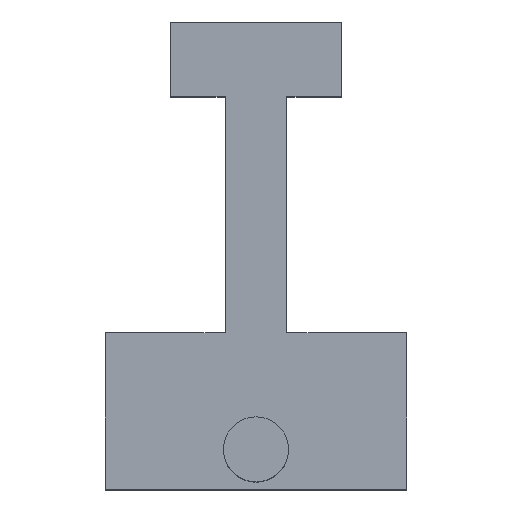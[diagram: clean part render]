
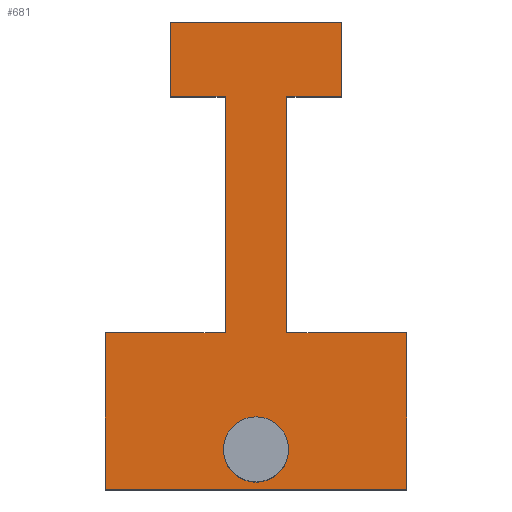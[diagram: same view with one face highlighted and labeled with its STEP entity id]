
A CAD part, top view. The second image highlights one B-rep face of the part: STEP entity #681.
In plain terms, the highlighted planar face has unit normal (0, 0, 1).
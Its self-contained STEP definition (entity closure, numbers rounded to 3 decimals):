
#13 = VERTEX_POINT ( 'NONE', #883 ) ;
#15 = CARTESIAN_POINT ( 'NONE',  ( 1.95, -4.85, 22. ) ) ;
#20 = CARTESIAN_POINT ( 'NONE',  ( -9.5, -4.85, 22. ) ) ;
#38 = CIRCLE ( 'NONE', #1050, 2.05 ) ;
#52 = CARTESIAN_POINT ( 'NONE',  ( -5.4, 10.05, 22. ) ) ;
#64 = EDGE_CURVE ( 'NONE', #282, #1248, #212, .T. ) ;
#67 = CARTESIAN_POINT ( 'NONE',  ( 5.4, 14.75, 22. ) ) ;
#82 = EDGE_CURVE ( 'NONE', #233, #677, #746, .T. ) ;
#104 = CARTESIAN_POINT ( 'NONE',  ( 5.4, 10.05, 22. ) ) ;
#111 = EDGE_CURVE ( 'NONE', #1120, #282, #1227, .T. ) ;
#113 = CARTESIAN_POINT ( 'NONE',  ( -5.4, 14.75, 22. ) ) ;
#126 = CARTESIAN_POINT ( 'NONE',  ( 5.4, 14.75, 22. ) ) ;
#128 = DIRECTION ( 'NONE',  ( 0., 0., 1. ) ) ;
#132 = LINE ( 'NONE', #113, #755 ) ;
#147 = VECTOR ( 'NONE', #248, 1000. ) ;
#168 = ORIENTED_EDGE ( 'NONE', *, *, #738, .T. ) ;
#196 = VERTEX_POINT ( 'NONE', #1099 ) ;
#197 = DIRECTION ( 'NONE',  ( -1., 0., 0. ) ) ;
#205 = PLANE ( 'NONE',  #1128 ) ;
#208 = EDGE_CURVE ( 'NONE', #677, #570, #836, .T. ) ;
#212 = LINE ( 'NONE', #354, #471 ) ;
#228 = VECTOR ( 'NONE', #283, 1000. ) ;
#233 = VERTEX_POINT ( 'NONE', #15 ) ;
#237 = ORIENTED_EDGE ( 'NONE', *, *, #715, .T. ) ;
#248 = DIRECTION ( 'NONE',  ( 0., 1., 0. ) ) ;
#252 = ORIENTED_EDGE ( 'NONE', *, *, #208, .T. ) ;
#260 = CARTESIAN_POINT ( 'NONE',  ( 1.95, 10.05, 22. ) ) ;
#276 = ORIENTED_EDGE ( 'NONE', *, *, #539, .T. ) ;
#282 = VERTEX_POINT ( 'NONE', #20 ) ;
#283 = DIRECTION ( 'NONE',  ( 1., 0., 0. ) ) ;
#309 = ORIENTED_EDGE ( 'NONE', *, *, #563, .T. ) ;
#315 = CARTESIAN_POINT ( 'NONE',  ( -9.5, -4.85, 22. ) ) ;
#317 = AXIS2_PLACEMENT_3D ( 'NONE', #520, #128, #730 ) ;
#329 = VECTOR ( 'NONE', #378, 1000. ) ;
#331 = LINE ( 'NONE', #1258, #1117 ) ;
#351 = DIRECTION ( 'NONE',  ( 0., 1., 0. ) ) ;
#354 = CARTESIAN_POINT ( 'NONE',  ( -9.5, -14.75, 22. ) ) ;
#365 = CARTESIAN_POINT ( 'NONE',  ( 0., -12.25, 22. ) ) ;
#378 = DIRECTION ( 'NONE',  ( 0., -1., 0. ) ) ;
#379 = ORIENTED_EDGE ( 'NONE', *, *, #111, .T. ) ;
#390 = FACE_BOUND ( 'NONE', #1091, .T. ) ;
#400 = CARTESIAN_POINT ( 'NONE',  ( 0., 0., 22. ) ) ;
#404 = DIRECTION ( 'NONE',  ( -1., 0., 0. ) ) ;
#416 = ORIENTED_EDGE ( 'NONE', *, *, #64, .T. ) ;
#463 = DIRECTION ( 'NONE',  ( 0., 0., 1. ) ) ;
#471 = VECTOR ( 'NONE', #1068, 1000. ) ;
#473 = DIRECTION ( 'NONE',  ( -1., 0., 0. ) ) ;
#474 = ORIENTED_EDGE ( 'NONE', *, *, #490, .T. ) ;
#475 = DIRECTION ( 'NONE',  ( -1., 0., 0. ) ) ;
#490 = EDGE_CURVE ( 'NONE', #699, #196, #1214, .T. ) ;
#493 = DIRECTION ( 'NONE',  ( -1., 0., 0. ) ) ;
#520 = CARTESIAN_POINT ( 'NONE',  ( 0., -12.25, 22. ) ) ;
#532 = VECTOR ( 'NONE', #1197, 1000. ) ;
#539 = EDGE_CURVE ( 'NONE', #196, #233, #331, .T. ) ;
#563 = EDGE_CURVE ( 'NONE', #1248, #699, #861, .T. ) ;
#570 = VERTEX_POINT ( 'NONE', #785 ) ;
#599 = VECTOR ( 'NONE', #1236, 1000. ) ;
#609 = VERTEX_POINT ( 'NONE', #897 ) ;
#620 = DIRECTION ( 'NONE',  ( 0., -1., 0. ) ) ;
#648 = ORIENTED_EDGE ( 'NONE', *, *, #82, .T. ) ;
#654 = VECTOR ( 'NONE', #994, 1000. ) ;
#669 = CARTESIAN_POINT ( 'NONE',  ( -1.95, -4.85, 22. ) ) ;
#677 = VERTEX_POINT ( 'NONE', #802 ) ;
#681 = ADVANCED_FACE ( 'NONE', ( #390, #786 ), #205, .F. ) ;
#688 = LINE ( 'NONE', #126, #147 ) ;
#699 = VERTEX_POINT ( 'NONE', #1194 ) ;
#700 = CARTESIAN_POINT ( 'NONE',  ( -1.95, 10.05, 22. ) ) ;
#703 = ORIENTED_EDGE ( 'NONE', *, *, #1253, .T. ) ;
#715 = EDGE_CURVE ( 'NONE', #992, #749, #952, .T. ) ;
#727 = ORIENTED_EDGE ( 'NONE', *, *, #866, .T. ) ;
#730 = DIRECTION ( 'NONE',  ( -1., 0., 0. ) ) ;
#738 = EDGE_CURVE ( 'NONE', #1134, #1008, #132, .T. ) ;
#746 = LINE ( 'NONE', #260, #774 ) ;
#749 = VERTEX_POINT ( 'NONE', #700 ) ;
#755 = VECTOR ( 'NONE', #197, 1000. ) ;
#774 = VECTOR ( 'NONE', #351, 1000. ) ;
#784 = VECTOR ( 'NONE', #620, 1000. ) ;
#785 = CARTESIAN_POINT ( 'NONE',  ( 5.4, 10.05, 22. ) ) ;
#786 = FACE_OUTER_BOUND ( 'NONE', #988, .T. ) ;
#787 = CARTESIAN_POINT ( 'NONE',  ( -9.5, -14.75, 22. ) ) ;
#802 = CARTESIAN_POINT ( 'NONE',  ( 1.95, 10.05, 22. ) ) ;
#807 = ORIENTED_EDGE ( 'NONE', *, *, #846, .F. ) ;
#826 = CARTESIAN_POINT ( 'NONE',  ( -5.4, 10.05, 22. ) ) ;
#836 = LINE ( 'NONE', #104, #532 ) ;
#846 = EDGE_CURVE ( 'NONE', #13, #609, #1014, .T. ) ;
#861 = LINE ( 'NONE', #1277, #228 ) ;
#864 = ORIENTED_EDGE ( 'NONE', *, *, #1135, .F. ) ;
#866 = EDGE_CURVE ( 'NONE', #1008, #992, #1141, .T. ) ;
#883 = CARTESIAN_POINT ( 'NONE',  ( -2.05, -12.25, 22. ) ) ;
#897 = CARTESIAN_POINT ( 'NONE',  ( 2.05, -12.25, 22. ) ) ;
#903 = CARTESIAN_POINT ( 'NONE',  ( -1.95, 10.05, 22. ) ) ;
#942 = EDGE_CURVE ( 'NONE', #570, #1134, #688, .T. ) ;
#952 = LINE ( 'NONE', #903, #654 ) ;
#988 = EDGE_LOOP ( 'NONE', ( #727, #237, #703, #379, #416, #309, #474, #276, #648, #252, #1260, #168 ) ) ;
#992 = VERTEX_POINT ( 'NONE', #52 ) ;
#994 = DIRECTION ( 'NONE',  ( 1., 0., 0. ) ) ;
#1008 = VERTEX_POINT ( 'NONE', #1043 ) ;
#1014 = CIRCLE ( 'NONE', #317, 2.05 ) ;
#1017 = LINE ( 'NONE', #1265, #329 ) ;
#1043 = CARTESIAN_POINT ( 'NONE',  ( -5.4, 14.75, 22. ) ) ;
#1050 = AXIS2_PLACEMENT_3D ( 'NONE', #365, #463, #473 ) ;
#1068 = DIRECTION ( 'NONE',  ( 0., -1., 0. ) ) ;
#1090 = VECTOR ( 'NONE', #493, 1000. ) ;
#1091 = EDGE_LOOP ( 'NONE', ( #807, #864 ) ) ;
#1099 = CARTESIAN_POINT ( 'NONE',  ( 9.5, -4.85, 22. ) ) ;
#1117 = VECTOR ( 'NONE', #475, 1000. ) ;
#1120 = VERTEX_POINT ( 'NONE', #669 ) ;
#1128 = AXIS2_PLACEMENT_3D ( 'NONE', #400, #1185, #404 ) ;
#1130 = CARTESIAN_POINT ( 'NONE',  ( 9.5, -4.85, 22. ) ) ;
#1134 = VERTEX_POINT ( 'NONE', #67 ) ;
#1135 = EDGE_CURVE ( 'NONE', #609, #13, #38, .T. ) ;
#1141 = LINE ( 'NONE', #826, #784 ) ;
#1185 = DIRECTION ( 'NONE',  ( 0., 0., -1. ) ) ;
#1194 = CARTESIAN_POINT ( 'NONE',  ( 9.5, -14.75, 22. ) ) ;
#1197 = DIRECTION ( 'NONE',  ( 1., 0., 0. ) ) ;
#1214 = LINE ( 'NONE', #1130, #599 ) ;
#1227 = LINE ( 'NONE', #315, #1090 ) ;
#1236 = DIRECTION ( 'NONE',  ( 0., 1., 0. ) ) ;
#1248 = VERTEX_POINT ( 'NONE', #787 ) ;
#1253 = EDGE_CURVE ( 'NONE', #749, #1120, #1017, .T. ) ;
#1258 = CARTESIAN_POINT ( 'NONE',  ( 1.95, -4.85, 22. ) ) ;
#1260 = ORIENTED_EDGE ( 'NONE', *, *, #942, .T. ) ;
#1265 = CARTESIAN_POINT ( 'NONE',  ( -1.95, -4.85, 22. ) ) ;
#1277 = CARTESIAN_POINT ( 'NONE',  ( 9.5, -14.75, 22. ) ) ;
